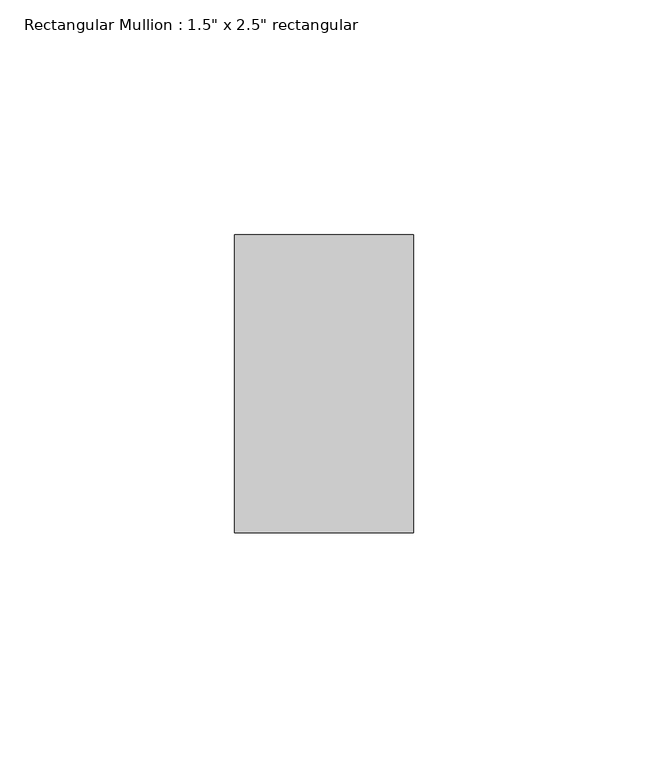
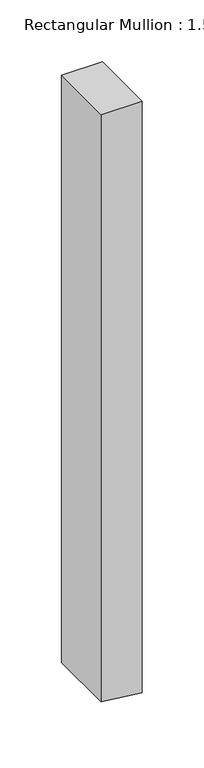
"""IFC4 building model written with IfcOpenShell, lengths in millimetres: member geometry."""

import ifcopenshell
import ifcopenshell.guid

model = None  # the IFC model being written
_history = None  # IfcOwnerHistory: only IFC2X3 demands one
_inside = {}  # id of a spatial element -> (the spatial element, [elements in it])
_under = {}  # id of a project, library or spatial element -> (it, [spatial elements below it])
_declared = {}  # id of a project -> (the project, [libraries it declares])
_typed = {}  # id of a type object -> (the type object, [elements of that type])
_made_of = {}  # id of a material, layer set ... -> (it, [elements and type objects made of it])


def new_model(schema):
    """Start an empty IFC model of exactly this schema.

    Asked for "IFC4X3", IfcOpenShell would pick the latest addendum, in which some entities
    have other attributes; the version numbers below select the first issue.
    IFC2X3 requires an IfcOwnerHistory on every rooted entity: one is made here for all.
    """
    global model, _history
    if schema == "IFC4X3":
        model = ifcopenshell.file(schema_version=(4, 3, 0, 0))
    else:
        model = ifcopenshell.file(schema=schema)
    _inside.clear()
    _under.clear()
    _declared.clear()
    _typed.clear()
    _made_of.clear()
    _history = None
    if model.schema == "IFC2X3":
        org = make("IfcOrganization", Name="unknown")
        user = make(
            "IfcPersonAndOrganization",
            ThePerson=make("IfcPerson", FamilyName="unknown"),
            TheOrganization=org,
        )
        app = make(
            "IfcApplication",
            ApplicationDeveloper=org,
            Version="unknown",
            ApplicationFullName="unknown",
            ApplicationIdentifier="unknown",
        )
        _history = make(
            "IfcOwnerHistory",
            OwningUser=user,
            OwningApplication=app,
            ChangeAction="ADDED",
            CreationDate=0,
        )
    return model


def make(cls, **values):
    """One entity of the class cls with the attributes given. An attribute that is None is left unset."""
    return model.create_entity(
        cls, **{name: value for name, value in values.items() if value is not None}
    )


def rooted(cls, **values):
    """An entity with a GlobalId (a new one), such as an element, a storey or a relation."""
    return make(cls, GlobalId=ifcopenshell.guid.new(), OwnerHistory=_history, **values)


def si_unit(unit_type, name, prefix=None):
    """IfcSIUnit, for example si_unit("LENGTHUNIT", "METRE", prefix="MILLI")."""
    return make("IfcSIUnit", UnitType=unit_type, Prefix=prefix, Name=name)


def assignment(units):
    """IfcUnitAssignment: the units of a project."""
    return None if units is None else make("IfcUnitAssignment", Units=units)


def point(xyz):
    """IfcCartesianPoint."""
    return None if xyz is None else make("IfcCartesianPoint", Coordinates=xyz)


def direction(xyz):
    """IfcDirection."""
    return None if xyz is None else make("IfcDirection", DirectionRatios=xyz)


def frame(location, z_axis=None, x_axis=None):
    """IfcAxis2Placement3D, a coordinate frame: its origin and axes. An axis left out is left unset."""
    return make(
        "IfcAxis2Placement3D",
        Location=point(location),
        Axis=direction(z_axis),
        RefDirection=direction(x_axis),
    )


def origin():
    """The frame at (0, 0, 0) with its axes left unset."""
    return frame((0.0, 0.0, 0.0))


def place(relative_to, where):
    """IfcLocalPlacement: puts the frame where relative to a parent placement (None: the world)."""
    return make(
        "IfcLocalPlacement", PlacementRelTo=relative_to, RelativePlacement=where
    )


def context(
    kind, dimensions, precision=None, world=None, true_north=None, identifier=None
):
    """IfcGeometricRepresentationContext, for example the 3D "Model" context."""
    return make(
        "IfcGeometricRepresentationContext",
        ContextIdentifier=identifier,
        ContextType=kind,
        CoordinateSpaceDimension=dimensions,
        Precision=precision,
        WorldCoordinateSystem=world,
        TrueNorth=true_north,
    )


def project(units=None, contexts=None):
    """IfcProject with its units and contexts."""
    return rooted(
        "IfcProject",
        Name="project",
        RepresentationContexts=contexts,
        UnitsInContext=assignment(units),
    )


def spatial(cls, under=None, at=None, **own):
    """A site, building, storey or space (cls), placed at a placement, below another one or the project."""
    s = rooted(cls, ObjectPlacement=at, **own)
    if under is not None:
        _under.setdefault(under.id(), (under, []))[1].append(s)
    return s


def polyline(points):
    """IfcPolyline through the points."""
    return make("IfcPolyline", Points=[point(p) for p in points])


def outline(outer, holes=None, kind="AREA"):
    """IfcArbitraryClosedProfileDef: a profile drawn as a closed curve; with holes, ...WithVoids."""
    if holes is None:
        return make("IfcArbitraryClosedProfileDef", ProfileType=kind, OuterCurve=outer)
    return make(
        "IfcArbitraryProfileDefWithVoids",
        ProfileType=kind,
        OuterCurve=outer,
        InnerCurves=holes,
    )


def extrude(swept, where, along, depth):
    """IfcExtrudedAreaSolid: the profile swept, set in the frame where, extruded along a direction by depth."""
    return make(
        "IfcExtrudedAreaSolid",
        SweptArea=swept,
        Position=where,
        ExtrudedDirection=direction(along),
        Depth=depth,
    )


def shape(context_of_items, identifier, shape_type, items):
    """IfcShapeRepresentation: the items that make up one representation, for example the "Body"."""
    return make(
        "IfcShapeRepresentation",
        ContextOfItems=context_of_items,
        RepresentationIdentifier=identifier,
        RepresentationType=shape_type,
        Items=items,
    )


def source(mapping_origin, context_of_items, identifier, shape_type, items):
    """IfcRepresentationMap: a shape defined once, which mapped items show again and again."""
    return make(
        "IfcRepresentationMap",
        MappingOrigin=mapping_origin,
        MappedRepresentation=shape(context_of_items, identifier, shape_type, items),
    )


def transform(
    local_origin,
    x_axis=None,
    y_axis=None,
    z_axis=None,
    scale=None,
    scale2=None,
    scale3=None,
    uniform=True,
):
    """IfcCartesianTransformationOperator3D, or its non-uniform kind. x_axis, y_axis, z_axis: its Axis1, 2, 3."""
    if uniform:
        return make(
            "IfcCartesianTransformationOperator3D",
            Axis1=direction(x_axis),
            Axis2=direction(y_axis),
            LocalOrigin=point(local_origin),
            Scale=scale,
            Axis3=direction(z_axis),
        )
    return make(
        "IfcCartesianTransformationOperator3DnonUniform",
        Axis1=direction(x_axis),
        Axis2=direction(y_axis),
        LocalOrigin=point(local_origin),
        Scale=scale,
        Axis3=direction(z_axis),
        Scale2=scale2,
        Scale3=scale3,
    )


def mapped(mapping_source, mapping_target):
    """IfcMappedItem: shows the shape of a source again, moved by a transform."""
    return make(
        "IfcMappedItem", MappingSource=mapping_source, MappingTarget=mapping_target
    )


def made_of(thing, what):
    """Note that an element or type object is made of a material, layer set ...; save() writes the relation."""
    if what is not None:
        _made_of.setdefault(what.id(), (what, []))[1].append(thing)
    return thing


def element(
    cls,
    number,
    at=None,
    inside=None,
    cuts=None,
    type_object=None,
    material=None,
    context=None,
    identifier="Body",
    shape_type=None,
    held_by="IfcProductDefinitionShape",
    body=None,
    shapes=None,
    **own,
):
    """One element of the class cls, such as IfcWall. Its Tag is "e" and its number.

    at: its placement. inside: the storey or other place that contains it. cuts: it is an
    opening in that element (IfcRelVoidsElement). A single representation is given by context,
    identifier, shape_type and body (its items); several are given by shapes. held_by: the class
    of the entity that holds the representations. save() writes the other relations.
    """
    e = rooted(cls, Tag="e%d" % number, ObjectPlacement=at, **own)
    if body is not None:
        shapes = [shape(context, identifier, shape_type, body)]
    if shapes is not None:
        e.Representation = make(held_by, Representations=shapes)
    if inside is not None:
        _inside.setdefault(inside.id(), (inside, []))[1].append(e)
    if cuts is not None:
        rooted(
            "IfcRelVoidsElement", RelatingBuildingElement=cuts, RelatedOpeningElement=e
        )
    if type_object is not None:
        _typed.setdefault(type_object.id(), (type_object, []))[1].append(e)
    return made_of(e, material)


def aggregate(whole, parts):
    """IfcRelAggregates: a whole, such as a stair, and the parts it consists of."""
    return rooted("IfcRelAggregates", RelatingObject=whole, RelatedObjects=parts)


def save(model, path):
    """Write the relations noted so far, then the file.

    IfcRelAggregates (storeys below a building ...), IfcRelContainedInSpatialStructure (elements
    in a storey), IfcRelDefinesByType, IfcRelAssociatesMaterial and IfcRelDeclares: one each for
    every whole, place, type object, material and project.
    """
    for whole, parts in _under.values():
        aggregate(whole, parts)
    for where, things in _inside.values():
        rooted(
            "IfcRelContainedInSpatialStructure",
            RelatedElements=things,
            RelatingStructure=where,
        )
    for kind, things in _typed.values():
        rooted("IfcRelDefinesByType", RelatedObjects=things, RelatingType=kind)
    for what, things in _made_of.values():
        rooted("IfcRelAssociatesMaterial", RelatedObjects=things, RelatingMaterial=what)
    for by, libraries in _declared.values():
        rooted("IfcRelDeclares", RelatingContext=by, RelatedDefinitions=libraries)
    model.write(path)


def member_a7599d5d(model_context):
    return source(origin(), model_context, "Body", "SweptSolid", [
        extrude(outline(polyline([(0.0, 19.05), (0.0, -19.05), (-578.8343281, -19.05), (-581.8917551, 6.3491221), (-582.9159977, 19.05), (0.0, 19.05)])), frame((0.0, -31.75, 0.0), z_axis=(0.0, 1.0, 0.0), x_axis=(0.0, 0.0, 1.0)), (0.0, 0.0, 1.0), 63.5),
    ])


if __name__ == "__main__":
    model = new_model("IFC4")
    model_context = context("Model", 3, world=origin())
    ifc_project = project(units=[si_unit("LENGTHUNIT", "METRE", prefix="MILLI")], contexts=[model_context])
    site = spatial("IfcSite", under=ifc_project)
    building = spatial("IfcBuilding", under=site)
    placement = place(None, origin())
    member_shape = member_a7599d5d(model_context)
    element("IfcMember", 1, ObjectType="Rectangular Mullion : 1.5\" x 2.5\" rectangular", at=placement, inside=building, context=model_context, shape_type="MappedRepresentation", body=[
        mapped(member_shape, transform((0.0, 0.0, 0.0), x_axis=(1.0, 0.0, 0.0), y_axis=(0.0, 1.0, 0.0), z_axis=(0.0, 0.0, 1.0))),
    ])
    save(model, "model.ifc")
